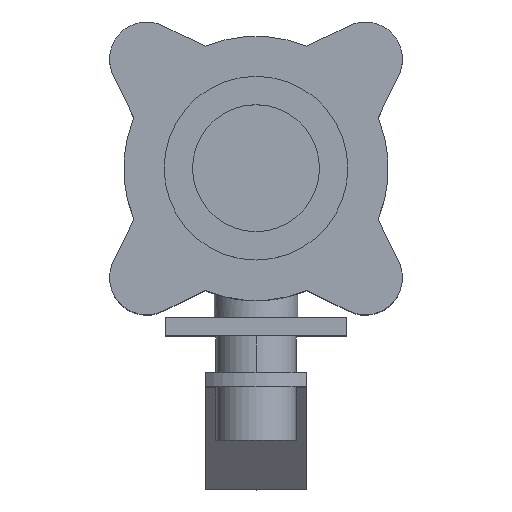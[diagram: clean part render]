
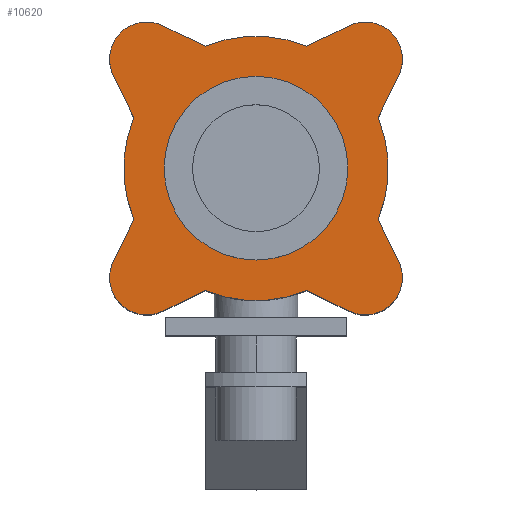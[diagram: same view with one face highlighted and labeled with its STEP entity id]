
A CAD part, top view. The second image highlights one B-rep face of the part: STEP entity #10620.
In plain terms, the highlighted planar face has unit normal (0, 0, 1).
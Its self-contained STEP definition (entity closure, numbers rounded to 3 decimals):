
#3440=CARTESIAN_POINT('',(-13.972,-33.558,
37.029));
#3450=VERTEX_POINT('',#3440);
#3480=CARTESIAN_POINT('',(0.,0.,
37.029));
#3490=DIRECTION('',(0.,0.,-1.));
#3500=DIRECTION('',(-0.707,0.707,
0.));
#3510=AXIS2_PLACEMENT_3D('',#3480,#3490,#3500);
#3520=CIRCLE('',#3510,36.35);
#3530=CARTESIAN_POINT('',(13.972,-33.558,
37.029));
#3540=VERTEX_POINT('',#3530);
#3550=EDGE_CURVE('',#3540,#3450,#3520,.T.);
#3710=CARTESIAN_POINT('',(-17.976,-17.976,
37.029));
#3720=DIRECTION('',(0.899,-0.438,
0.));
#3730=VECTOR('',#3720,1.);
#3740=LINE('',#3710,#3730);
#3750=CARTESIAN_POINT('',(25.581,-39.22,
37.029));
#3760=VERTEX_POINT('',#3750);
#3770=EDGE_CURVE('',#3540,#3760,#3740,.T.);
#6930=CARTESIAN_POINT('',(17.976,-17.976,
37.029));
#6940=DIRECTION('',(0.899,0.438,
0.));
#6950=VECTOR('',#6940,1.);
#6960=LINE('',#6930,#6950);
#6970=CARTESIAN_POINT('',(-25.581,-39.22,
37.029));
#6980=VERTEX_POINT('',#6970);
#6990=EDGE_CURVE('',#6980,#3450,#6960,.T.);
#7170=CARTESIAN_POINT('',(-30.052,-30.052,
37.029));
#7180=DIRECTION('',(0.,0.,-1.));
#7190=DIRECTION('',(-0.707,0.707,
0.));
#7200=AXIS2_PLACEMENT_3D('',#7170,#7180,#7190);
#7210=CIRCLE('',#7200,10.2);
#7220=CARTESIAN_POINT('',(-39.22,-25.581,
37.029));
#7230=VERTEX_POINT('',#7220);
#7240=EDGE_CURVE('',#6980,#7230,#7210,.T.);
#7420=CARTESIAN_POINT('',(-17.976,17.976,
37.029));
#7430=DIRECTION('',(-0.438,-0.899,
0.));
#7440=VECTOR('',#7430,1.);
#7450=LINE('',#7420,#7440);
#7460=CARTESIAN_POINT('',(-33.558,-13.972,
37.029));
#7470=VERTEX_POINT('',#7460);
#7480=EDGE_CURVE('',#7470,#7230,#7450,.T.);
#7710=CARTESIAN_POINT('',(-33.558,13.972,
37.029));
#7720=VERTEX_POINT('',#7710);
#7750=CARTESIAN_POINT('',(0.,0.,
37.029));
#7760=DIRECTION('',(0.,0.,-1.));
#7770=DIRECTION('',(-0.707,0.707,
0.));
#7780=AXIS2_PLACEMENT_3D('',#7750,#7760,#7770);
#7790=CIRCLE('',#7780,36.35);
#7800=EDGE_CURVE('',#7470,#7720,#7790,.T.);
#7910=CARTESIAN_POINT('',(-17.976,-17.976,
37.029));
#7920=DIRECTION('',(0.438,-0.899,
0.));
#7930=VECTOR('',#7920,1.);
#7940=LINE('',#7910,#7930);
#7950=CARTESIAN_POINT('',(-39.22,25.581,
37.029));
#7960=VERTEX_POINT('',#7950);
#7970=EDGE_CURVE('',#7960,#7720,#7940,.T.);
#8210=CARTESIAN_POINT('',(-25.581,39.22,
37.029));
#8220=VERTEX_POINT('',#8210);
#8250=CARTESIAN_POINT('',(-30.052,30.052,
37.029));
#8260=DIRECTION('',(0.,0.,-1.));
#8270=DIRECTION('',(-0.707,0.707,
0.));
#8280=AXIS2_PLACEMENT_3D('',#8250,#8260,#8270);
#8290=CIRCLE('',#8280,10.2);
#8300=EDGE_CURVE('',#7960,#8220,#8290,.T.);
#8400=CARTESIAN_POINT('',(17.976,17.976,
37.029));
#8410=DIRECTION('',(-0.899,0.438,
0.));
#8420=VECTOR('',#8410,1.);
#8430=LINE('',#8400,#8420);
#8440=CARTESIAN_POINT('',(-13.972,33.558,
37.029));
#8450=VERTEX_POINT('',#8440);
#8460=EDGE_CURVE('',#8450,#8220,#8430,.T.);
#8690=CARTESIAN_POINT('',(13.972,33.558,
37.029));
#8700=VERTEX_POINT('',#8690);
#8730=CARTESIAN_POINT('',(0.,0.,
37.029));
#8740=DIRECTION('',(0.,0.,-1.));
#8750=DIRECTION('',(-0.707,0.707,
0.));
#8760=AXIS2_PLACEMENT_3D('',#8730,#8740,#8750);
#8770=CIRCLE('',#8760,36.35);
#8780=EDGE_CURVE('',#8450,#8700,#8770,.T.);
#8890=CARTESIAN_POINT('',(-17.976,17.976,
37.029));
#8900=DIRECTION('',(-0.899,-0.438,
0.));
#8910=VECTOR('',#8900,1.);
#8920=LINE('',#8890,#8910);
#8930=CARTESIAN_POINT('',(25.581,39.22,
37.029));
#8940=VERTEX_POINT('',#8930);
#8950=EDGE_CURVE('',#8940,#8700,#8920,.T.);
#9130=CARTESIAN_POINT('',(30.052,30.052,
37.029));
#9140=DIRECTION('',(0.,0.,-1.));
#9150=DIRECTION('',(-0.707,0.707,
0.));
#9160=AXIS2_PLACEMENT_3D('',#9130,#9140,#9150);
#9170=CIRCLE('',#9160,10.2);
#9180=CARTESIAN_POINT('',(39.22,25.581,
37.029));
#9190=VERTEX_POINT('',#9180);
#9200=EDGE_CURVE('',#8940,#9190,#9170,.T.);
#9430=CARTESIAN_POINT('',(33.558,13.972,
37.029));
#9440=VERTEX_POINT('',#9430);
#9470=CARTESIAN_POINT('',(17.976,-17.976,
37.029));
#9480=DIRECTION('',(0.438,0.899,
0.));
#9490=VECTOR('',#9480,1.);
#9500=LINE('',#9470,#9490);
#9510=EDGE_CURVE('',#9440,#9190,#9500,.T.);
#9670=CARTESIAN_POINT('',(33.558,-13.972,
37.029));
#9680=VERTEX_POINT('',#9670);
#9710=CARTESIAN_POINT('',(0.,0.,
37.029));
#9720=DIRECTION('',(0.,0.,-1.));
#9730=DIRECTION('',(-0.707,0.707,
0.));
#9740=AXIS2_PLACEMENT_3D('',#9710,#9720,#9730);
#9750=CIRCLE('',#9740,36.35);
#9760=EDGE_CURVE('',#9440,#9680,#9750,.T.);
#9920=CARTESIAN_POINT('',(39.22,-25.581,
37.029));
#9930=VERTEX_POINT('',#9920);
#9960=CARTESIAN_POINT('',(17.976,17.976,
37.029));
#9970=DIRECTION('',(-0.438,0.899,
0.));
#9980=VECTOR('',#9970,1.);
#9990=LINE('',#9960,#9980);
#10000=EDGE_CURVE('',#9930,#9680,#9990,.T.);
#10110=CARTESIAN_POINT('',(30.052,-30.052,
37.029));
#10120=DIRECTION('',(0.,0.,-1.));
#10130=DIRECTION('',(-0.707,0.707,
0.));
#10140=AXIS2_PLACEMENT_3D('',#10110,#10120,#10130);
#10150=CIRCLE('',#10140,10.2);
#10160=EDGE_CURVE('',#9930,#3760,#10150,.T.);
#10240=CARTESIAN_POINT('',(37.265,37.265,
37.029));
#10250=DIRECTION('',(0.,0.,-1.));
#10260=DIRECTION('',(-0.707,-0.707,
0.));
#10270=AXIS2_PLACEMENT_3D('',#10240,#10250,#10260);
#10280=PLANE('',#10270);
#10290=ORIENTED_EDGE('',*,*,#3550,.F.);
#10300=ORIENTED_EDGE('',*,*,#6990,.T.);
#10310=ORIENTED_EDGE('',*,*,#7240,.F.);
#10320=ORIENTED_EDGE('',*,*,#7480,.T.);
#10330=ORIENTED_EDGE('',*,*,#7800,.F.);
#10340=ORIENTED_EDGE('',*,*,#7970,.T.);
#10350=ORIENTED_EDGE('',*,*,#8300,.F.);
#10360=ORIENTED_EDGE('',*,*,#8460,.T.);
#10370=ORIENTED_EDGE('',*,*,#8780,.F.);
#10380=ORIENTED_EDGE('',*,*,#8950,.T.);
#10390=ORIENTED_EDGE('',*,*,#9200,.F.);
#10400=ORIENTED_EDGE('',*,*,#9510,.T.);
#10410=ORIENTED_EDGE('',*,*,#9760,.F.);
#10420=ORIENTED_EDGE('',*,*,#10000,.T.);
#10430=ORIENTED_EDGE('',*,*,#10160,.F.);
#10440=ORIENTED_EDGE('',*,*,#3770,.T.);
#10450=EDGE_LOOP('',(#10440,#10430,#10420,#10410,#10400,#10390,#10380,
#10370,#10360,#10350,#10340,#10330,#10320,#10310,#10300,#10290));
#10460=FACE_OUTER_BOUND('',#10450,.T.);
#10470=CARTESIAN_POINT('',(0.,0.,
37.029));
#10480=DIRECTION('',(0.,0.,1.));
#10490=DIRECTION('',(1.,0.,0.));
#10500=AXIS2_PLACEMENT_3D('',#10470,#10480,#10490);
#10510=CIRCLE('',#10500,19.05);
#10520=CARTESIAN_POINT('',(19.05,0.,37.029));
#10530=VERTEX_POINT('',#10520);
#10540=CARTESIAN_POINT('',(-19.05,0.,37.029
));
#10550=VERTEX_POINT('',#10540);
#10560=EDGE_CURVE('',#10530,#10550,#10510,.T.);
#10570=ORIENTED_EDGE('',*,*,#10560,.F.);
#10580=EDGE_CURVE('',#10550,#10530,#10510,.T.);
#10590=ORIENTED_EDGE('',*,*,#10580,.F.);
#10600=EDGE_LOOP('',(#10590,#10570));
#10610=FACE_BOUND('',#10600,.T.);
#10620=ADVANCED_FACE('',(#10460,#10610),#10280,.F.);
